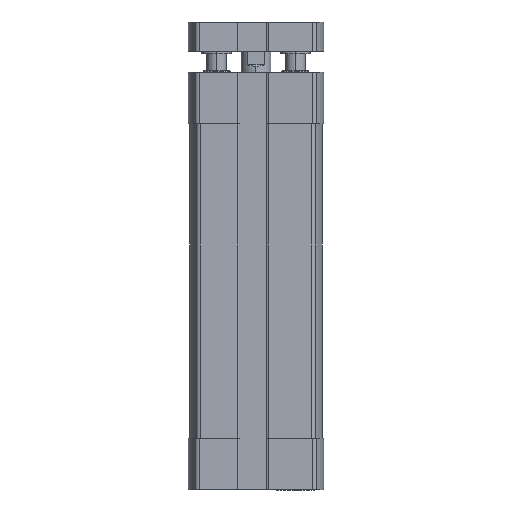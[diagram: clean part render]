
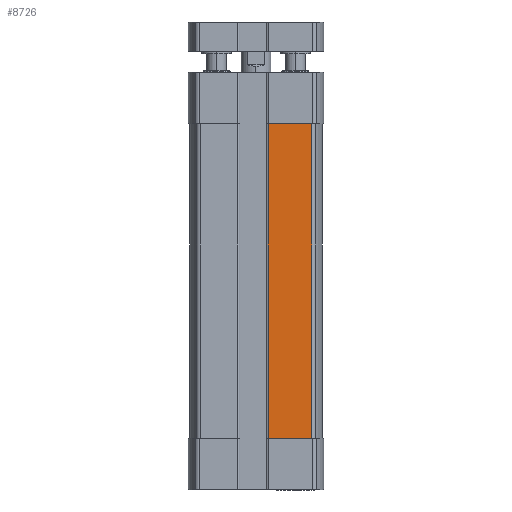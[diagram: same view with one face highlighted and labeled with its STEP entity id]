
A CAD part, front view. The second image highlights one B-rep face of the part: STEP entity #8726.
In plain terms, the highlighted planar face has unit normal (0, -1, 0) as drawn and (-1, 0, 0) by its records, which use the part's own axes.
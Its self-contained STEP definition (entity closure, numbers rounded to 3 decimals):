
#300 = CARTESIAN_POINT ( 'NONE',  ( -13.5, 0., -10.5 ) ) ;
#323 = CARTESIAN_POINT ( 'NONE',  ( -13.5, -2.5, -10.5 ) ) ;
#728 = ORIENTED_EDGE ( 'NONE', *, *, #7855, .T. ) ;
#2149 = LINE ( 'NONE', #300, #6503 ) ;
#4190 = VECTOR ( 'NONE', #7826, 1000. ) ;
#5043 = EDGE_CURVE ( 'NONE', #9159, #12799, #2149, .T. ) ;
#5409 = VECTOR ( 'NONE', #15048, 1000. ) ;
#5667 = CARTESIAN_POINT ( 'NONE',  ( -13.5, -2.5, -74.5 ) ) ;
#5770 = ORIENTED_EDGE ( 'NONE', *, *, #15242, .T. ) ;
#6503 = VECTOR ( 'NONE', #9518, 1000. ) ;
#6505 = ORIENTED_EDGE ( 'NONE', *, *, #5043, .T. ) ;
#7044 = DIRECTION ( 'NONE',  ( 0., 0., 1. ) ) ;
#7826 = DIRECTION ( 'NONE',  ( 0., 0., -1. ) ) ;
#7855 = EDGE_CURVE ( 'NONE', #11857, #16278, #11525, .T. ) ;
#8041 = CARTESIAN_POINT ( 'NONE',  ( -13.5, -2.5, -74.5 ) ) ;
#8197 = AXIS2_PLACEMENT_3D ( 'NONE', #5667, #14916, #7044 ) ;
#8710 = CARTESIAN_POINT ( 'NONE',  ( -13.5, -11.329, -74.5 ) ) ;
#8726 = ADVANCED_FACE ( 'NONE', ( #17020 ), #13615, .T. ) ;
#8932 = LINE ( 'NONE', #14988, #5409 ) ;
#9159 = VERTEX_POINT ( 'NONE', #9234 ) ;
#9234 = CARTESIAN_POINT ( 'NONE',  ( -13.5, -11.329, -10.5 ) ) ;
#9518 = DIRECTION ( 'NONE',  ( 0., 1., 0. ) ) ;
#10749 = EDGE_LOOP ( 'NONE', ( #728, #15754, #6505, #5770 ) ) ;
#11122 = VECTOR ( 'NONE', #13095, 1000. ) ;
#11194 = LINE ( 'NONE', #17040, #4190 ) ;
#11525 = LINE ( 'NONE', #15718, #11122 ) ;
#11857 = VERTEX_POINT ( 'NONE', #8041 ) ;
#12799 = VERTEX_POINT ( 'NONE', #323 ) ;
#13095 = DIRECTION ( 'NONE',  ( 0., -1., 0. ) ) ;
#13615 = PLANE ( 'NONE',  #8197 ) ;
#14916 = DIRECTION ( 'NONE',  ( -1., 0., 0. ) ) ;
#14988 = CARTESIAN_POINT ( 'NONE',  ( -13.5, -11.329, -74.5 ) ) ;
#15048 = DIRECTION ( 'NONE',  ( 0., 0., 1. ) ) ;
#15242 = EDGE_CURVE ( 'NONE', #12799, #11857, #11194, .T. ) ;
#15718 = CARTESIAN_POINT ( 'NONE',  ( -13.5, -2.5, -74.5 ) ) ;
#15754 = ORIENTED_EDGE ( 'NONE', *, *, #16083, .T. ) ;
#16083 = EDGE_CURVE ( 'NONE', #16278, #9159, #8932, .T. ) ;
#16278 = VERTEX_POINT ( 'NONE', #8710 ) ;
#17020 = FACE_OUTER_BOUND ( 'NONE', #10749, .T. ) ;
#17040 = CARTESIAN_POINT ( 'NONE',  ( -13.5, -2.5, -74.5 ) ) ;
